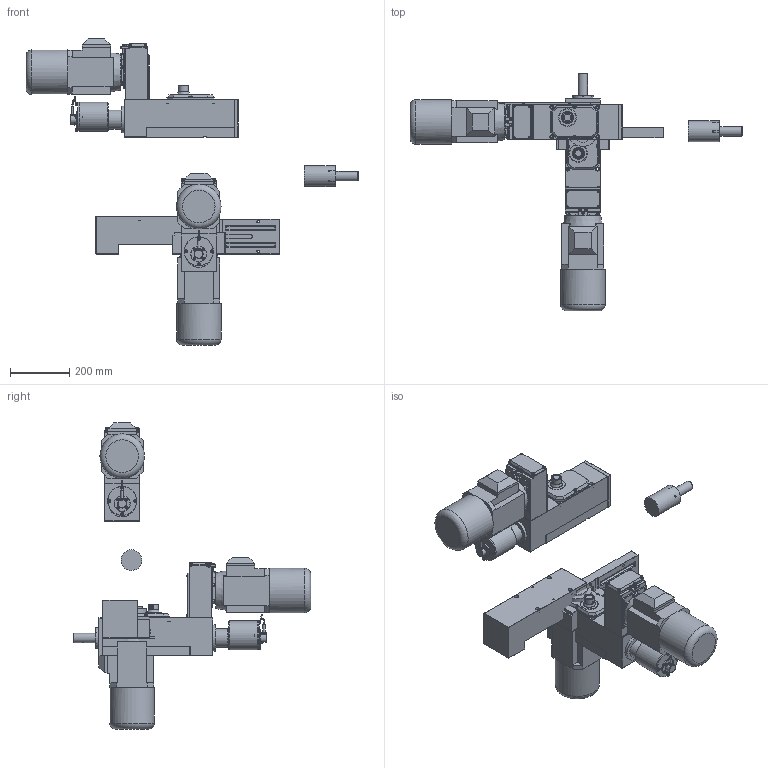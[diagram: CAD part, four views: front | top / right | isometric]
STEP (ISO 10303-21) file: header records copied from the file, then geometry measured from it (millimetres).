
FILE_DESCRIPTION( ( 'STEP AP203' ), '1' );
FILE_NAME( 'C:/Documents and Settings/Saverio/Desktop/disegni ironcad/unità serie 1/M 112/M 112_A05_P.stp', '2013-12-12T18:38:11', ( ' ' ), ( ' ' ), 'XStep 1.0', ' ', ' ' );
FILE_SCHEMA( ( 'CONFIG_CONTROL_DESIGN' ) );
Length unit declared in the file: metre
Products named in the file (52): Assem1; Assem2; Assem3; 1; 2; 3; 4; 5; 6; 7; 8; 9; 10; 11; 12; 13; 14; 15; 16; 17; 18; 19; 20; 21; 22; 23; 24; 25; 26; 27; 28; 29; 30; 31; 32; 33; 34; 35; 36; 37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
Bounding box: 1119.39 x 801 x 1032.13 mm (x, y, z)
Volume: 37706213.4 mm3; surface area: 3059069.8 mm2
Topology: 147 solids, 147 shells, 3036 faces, 6804 edges, 4230 vertices
Faces by surface type: plane 1875, cylinder 648, cone 405, sphere 60, bspline 30, torus 18
Full cylindrical faces by diameter (mm): 4.134 x3, 4.5 x12, 5 x36, 5.5 x15, 6 x21, 6.5 x6, 6.9 x12, 7 x3, 8 x3, 8.385 x15, 8.5 x24, 9.87 x24, 13.5 x12, 18 x3, 20 x3, 23 x3, 30 x3, 32 x12, 41 x3, 47 x3, 52 x6, 52.5 x3, 54 x9, 54.4 x3, 60 x3, 64 x3, 70 x3, 71 x3, 80 x6, 90 x3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
Entity records: 30652 total; most frequent: CARTESIAN_POINT 6717, DIRECTION 4499, ORIENTED_EDGE 4070, EDGE_CURVE 2035, AXIS2_PLACEMENT_3D 1618, VERTEX_POINT 1391, EDGE_LOOP 1334, LINE 1263
